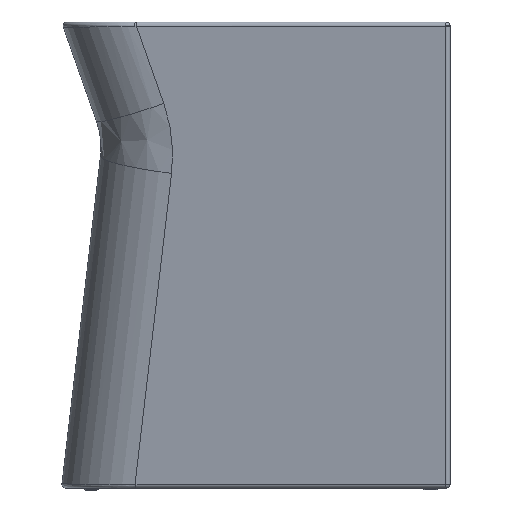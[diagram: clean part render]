
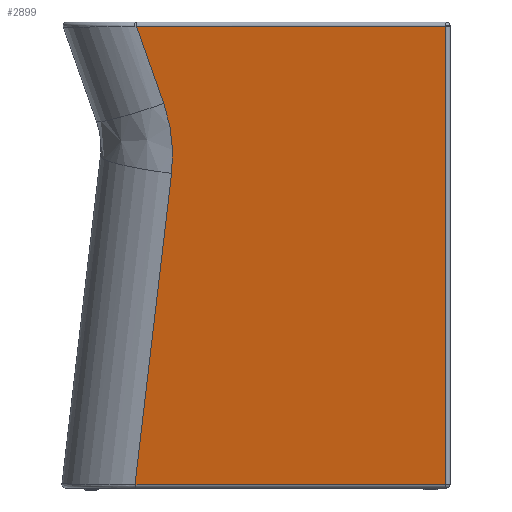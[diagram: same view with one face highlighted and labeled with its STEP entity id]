
A CAD part, left-side view. The second image highlights one B-rep face of the part: STEP entity #2899.
In plain terms, the highlighted planar face has unit normal (-0.992, 0.078, -0.104).
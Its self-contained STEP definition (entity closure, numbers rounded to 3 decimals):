
#2899=ADVANCED_FACE('',(#8787),#8788,.F.);
#8787=FACE_OUTER_BOUND('',#25673,.T.);
#8788=PLANE('',#25674);
#25673=EDGE_LOOP('',(#47456,#47457,#47458,#47459,#47460,#47461));
#25674=AXIS2_PLACEMENT_3D('',#47462,#47463,#47464);
#47456=ORIENTED_EDGE('',*,*,#56443,.F.);
#47457=ORIENTED_EDGE('',*,*,#56446,.F.);
#47458=ORIENTED_EDGE('',*,*,#56440,.T.);
#47459=ORIENTED_EDGE('',*,*,#56434,.F.);
#47460=ORIENTED_EDGE('',*,*,#56429,.F.);
#47461=ORIENTED_EDGE('',*,*,#56226,.F.);
#47462=CARTESIAN_POINT('',(-295.396,5.39,597.695));
#47463=DIRECTION('',(0.991,-0.078,0.104));
#47464=DIRECTION('',(0.105,0.,-0.995));
#56226=EDGE_CURVE('',#69080,#69078,#69082,.T.);
#56429=EDGE_CURVE('',#69078,#69414,#69415,.F.);
#56434=EDGE_CURVE('',#69414,#69345,#69420,.T.);
#56440=EDGE_CURVE('',#69428,#69345,#69429,.T.);
#56443=EDGE_CURVE('',#69432,#69080,#69433,.T.);
#56446=EDGE_CURVE('',#69428,#69432,#69436,.T.);
#69078=VERTEX_POINT('',#95956);
#69080=VERTEX_POINT('',#95958);
#69082=LINE('',#96007,#96008);
#69345=VERTEX_POINT('',#97203);
#69414=VERTEX_POINT('',#97630);
#69415=B_SPLINE_CURVE_WITH_KNOTS('',3,(#97631,#97632,#97633,#97634,#97635,#97636),.UNSPECIFIED.,.F.,.F.,(4,2,4),(0.0,0.5,1.0),.UNSPECIFIED.);
#69420=LINE('',#97641,#97642);
#69428=VERTEX_POINT('',#97666);
#69429=LINE('',#97667,#97668);
#69432=VERTEX_POINT('',#97671);
#69433=LINE('',#97672,#97673);
#69436=LINE('',#97676,#97677);
#95956=CARTESIAN_POINT('',(-247.353,358.297,404.856));
#95958=CARTESIAN_POINT('',(-201.568,405.363,4.479));
#96007=CARTESIAN_POINT('',(-223.116,383.212,192.907));
#96008=VECTOR('',#102163,1.0);
#97203=CARTESIAN_POINT('',(-263.7,403.374,594.138));
#97630=CARTESIAN_POINT('',(-256.011,368.314,494.724));
#97631=CARTESIAN_POINT('',(-256.011,368.314,494.724));
#97632=CARTESIAN_POINT('',(-254.902,363.258,480.387));
#97633=CARTESIAN_POINT('',(-253.603,359.844,465.472));
#97634=CARTESIAN_POINT('',(-250.692,356.476,435.255));
#97635=CARTESIAN_POINT('',(-249.08,356.522,419.954));
#97636=CARTESIAN_POINT('',(-247.353,358.297,404.856));
#97641=CARTESIAN_POINT('',(-260.746,389.907,555.952));
#97642=VECTOR('',#102424,1.0);
#97666=CARTESIAN_POINT('',(-295.022,5.39,594.138));
#97667=CARTESIAN_POINT('',(-295.022,5.39,594.138));
#97668=VECTOR('',#102434,1.0);
#97671=CARTESIAN_POINT('',(-233.047,5.39,4.479));
#97672=CARTESIAN_POINT('',(-217.307,205.377,4.479));
#97673=VECTOR('',#102441,1.0);
#97676=CARTESIAN_POINT('',(-264.034,5.39,299.308));
#97677=VECTOR('',#102448,1.0);
#102163=DIRECTION('',(-0.113,-0.116,0.987));
#102424=DIRECTION('',(-0.073,0.332,0.941));
#102434=DIRECTION('',(0.078,0.997,0.));
#102441=DIRECTION('',(0.078,0.997,0.));
#102448=DIRECTION('',(0.105,0.,-0.995));
